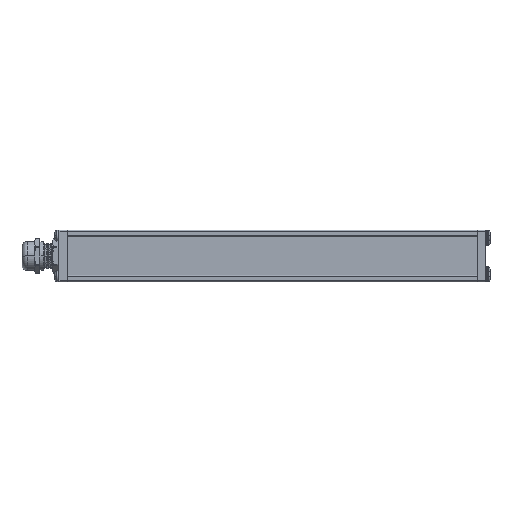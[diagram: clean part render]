
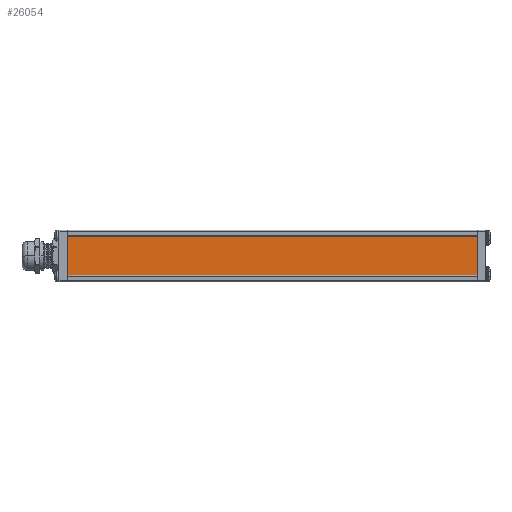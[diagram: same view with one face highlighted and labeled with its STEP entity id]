
A CAD part, top view. The second image highlights one B-rep face of the part: STEP entity #26054.
In plain terms, the highlighted planar face has unit normal (0, 0, 1) as drawn and (0, 1, 0) by its records, which use the part's own axes.
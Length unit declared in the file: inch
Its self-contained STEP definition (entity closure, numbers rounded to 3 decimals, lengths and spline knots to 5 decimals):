
#223 = EDGE_CURVE ( 'NONE', #16224, #17058, #12947, .T. ) ;
#393 = DIRECTION ( 'NONE',  ( 0., 0., 1. ) ) ;
#401 = EDGE_CURVE ( 'NONE', #16224, #25895, #24855, .T. ) ;
#869 = CARTESIAN_POINT ( 'NONE',  ( 3.135, 0.03, 0.344 ) ) ;
#1370 = VERTEX_POINT ( 'NONE', #22468 ) ;
#1530 = ORIENTED_EDGE ( 'NONE', *, *, #21913, .T. ) ;
#2111 = EDGE_LOOP ( 'NONE', ( #1530, #7866, #25199, #8810 ) ) ;
#2130 = VECTOR ( 'NONE', #16209, 39.37008 ) ;
#3287 = DIRECTION ( 'NONE',  ( -1., 0., 0. ) ) ;
#4686 = CARTESIAN_POINT ( 'NONE',  ( 3.135, 0.03, -0.344 ) ) ;
#6090 = DIRECTION ( 'NONE',  ( 0., 0., 1. ) ) ;
#6130 = CARTESIAN_POINT ( 'NONE',  ( 3.135, 0.03, 0.344 ) ) ;
#6722 = LINE ( 'NONE', #22647, #17112 ) ;
#7731 = VECTOR ( 'NONE', #393, 39.37008 ) ;
#7866 = ORIENTED_EDGE ( 'NONE', *, *, #19736, .F. ) ;
#8810 = ORIENTED_EDGE ( 'NONE', *, *, #401, .T. ) ;
#11497 = FACE_OUTER_BOUND ( 'NONE', #2111, .T. ) ;
#12064 = PLANE ( 'NONE',  #14161 ) ;
#12947 = LINE ( 'NONE', #18833, #7731 ) ;
#14161 = AXIS2_PLACEMENT_3D ( 'NONE', #26549, #17046, #26652 ) ;
#14909 = CARTESIAN_POINT ( 'NONE',  ( 3.135, 0.03, -0.344 ) ) ;
#15761 = VECTOR ( 'NONE', #3287, 39.37008 ) ;
#16209 = DIRECTION ( 'NONE',  ( -1., 0., 0. ) ) ;
#16224 = VERTEX_POINT ( 'NONE', #14909 ) ;
#17046 = DIRECTION ( 'NONE',  ( 0., -1., 0. ) ) ;
#17058 = VERTEX_POINT ( 'NONE', #6130 ) ;
#17112 = VECTOR ( 'NONE', #6090, 39.37008 ) ;
#18833 = CARTESIAN_POINT ( 'NONE',  ( 3.135, 0.03, 0.344 ) ) ;
#18917 = CARTESIAN_POINT ( 'NONE',  ( -3.135, 0.03, -0.344 ) ) ;
#19736 = EDGE_CURVE ( 'NONE', #17058, #1370, #22141, .T. ) ;
#21913 = EDGE_CURVE ( 'NONE', #25895, #1370, #6722, .T. ) ;
#22141 = LINE ( 'NONE', #869, #15761 ) ;
#22468 = CARTESIAN_POINT ( 'NONE',  ( -3.135, 0.03, 0.344 ) ) ;
#22647 = CARTESIAN_POINT ( 'NONE',  ( -3.135, 0.03, 0.344 ) ) ;
#24855 = LINE ( 'NONE', #4686, #2130 ) ;
#25199 = ORIENTED_EDGE ( 'NONE', *, *, #223, .F. ) ;
#25895 = VERTEX_POINT ( 'NONE', #18917 ) ;
#26054 = ADVANCED_FACE ( 'NONE', ( #11497 ), #12064, .F. ) ;
#26549 = CARTESIAN_POINT ( 'NONE',  ( 3.135, 0.03, 0.344 ) ) ;
#26652 = DIRECTION ( 'NONE',  ( 0., 0., -1. ) ) ;
